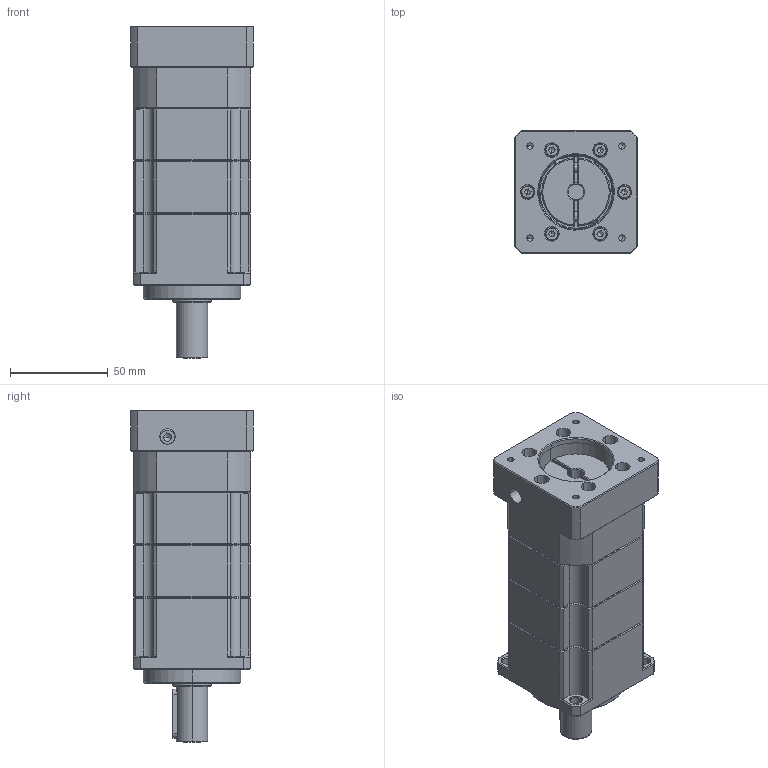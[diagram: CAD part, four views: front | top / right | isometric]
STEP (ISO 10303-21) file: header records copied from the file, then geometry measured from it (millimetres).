
FILE_DESCRIPTION (( 'STEP AP214' ), '1' );
FILE_NAME ('ZPB060-D16-L3-P1-8-38.1-47.14X47.14-M4.step', '2024-04-23T15:44:14', ( 'Windows 蚚誧' ), ( 'Organization' ), 'SwSTEP 2.0', 'SolidWorks 2016', '' );
FILE_SCHEMA (( 'AUTOMOTIVE_DESIGN' ));
Length unit declared in the file: millimetre
Products named in the file (1): ZPB060-D16-L3-P1-8-38.1-47.14X47.14-M4
Bounding box: 62.5 x 62.5 x 170 mm (x, y, z)
Volume: 417682.3 mm3; surface area: 80552.5 mm2
Topology: 13 solids, 21 shells, 2024 faces, 5314 edges, 3395 vertices
Faces by surface type: plane 1118, bspline 373, cylinder 297, cone 220, torus 16
Entity records: 102352 total; most frequent: CARTESIAN_POINT 32713, ORIENTED_EDGE 10520, DIRECTION 8435, EDGE_CURVE 5260, VECTOR 3457, LINE 3457, VERTEX_POINT 3395, AXIS2_PLACEMENT_3D 2489
